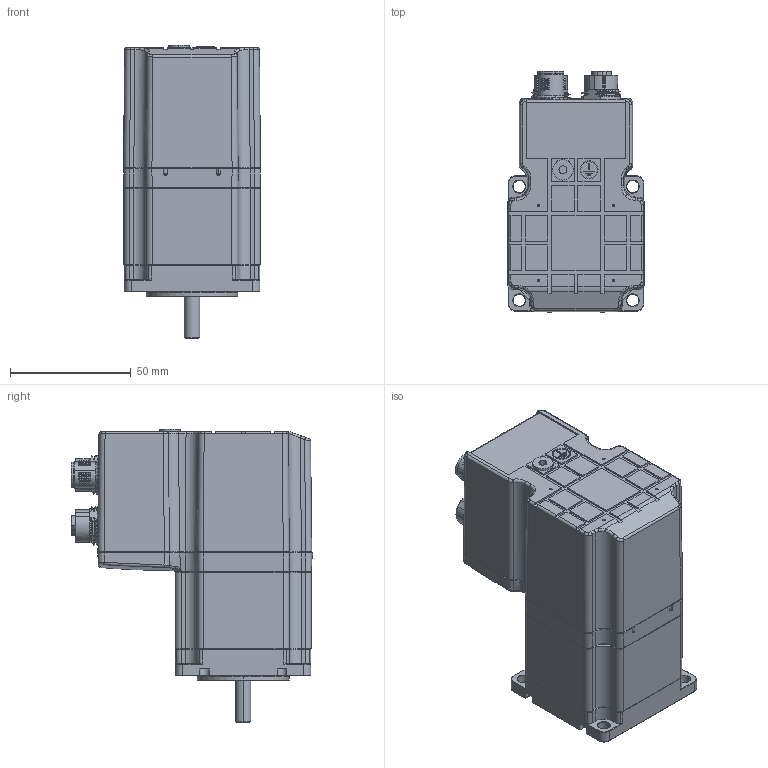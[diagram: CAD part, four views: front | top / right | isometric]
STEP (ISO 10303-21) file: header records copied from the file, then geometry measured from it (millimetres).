
FILE_DESCRIPTION (( 'STEP AP214' ), '1' );
FILE_NAME ('MIS23_Solid1.STEP', '2016-11-01T06:47:39', ( '' ), ( '' ), 'SwSTEP 2.0', 'SolidWorks 2013', '' );
FILE_SCHEMA (( 'AUTOMOTIVE_DESIGN' ));
Length unit declared in the file: millimetre
Products named in the file (1): MIS23_Solid1
Bounding box: 56.64 x 99.79 x 121.5 mm (x, y, z)
Volume: 375057.6 mm3; surface area: 42653.1 mm2
Topology: 1 solids, 3 shells, 1906 faces, 4810 edges, 2984 vertices
Faces by surface type: plane 762, cylinder 427, bspline 363, cone 206, torus 134, sphere 14
Entity records: 108059 total; most frequent: CARTESIAN_POINT 44156, ORIENTED_EDGE 9592, DIRECTION 7948, EDGE_CURVE 4796, VERTEX_POINT 2984, AXIS2_PLACEMENT_3D 2747, VECTOR 2454, LINE 2454
